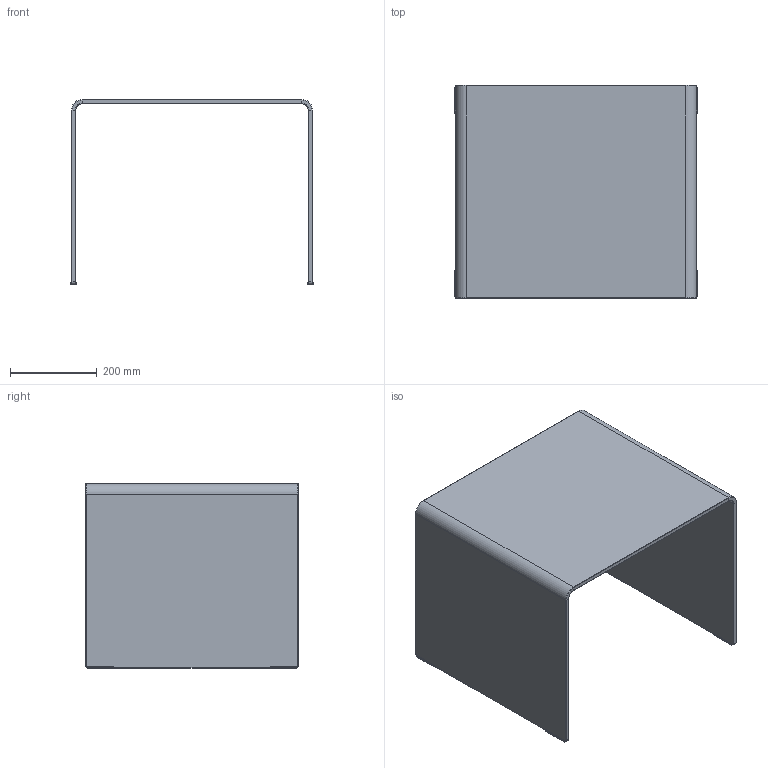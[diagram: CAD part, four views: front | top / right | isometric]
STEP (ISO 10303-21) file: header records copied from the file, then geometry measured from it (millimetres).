
FILE_DESCRIPTION((''),'2;1');
FILE_NAME('C:\AutodeskVault\AreaLavoro\Progetti\SoVeT Italia\2. Tavolini_Coffee tables\Trix\Web file\Trix Web\P4130.stp','2012-06-14T16:49:02',('Gianluca'),('So.Ve.T. s.r.l.'),'Autodesk Inventor 2013','Autodesk Inventor 2013','IL PROGETTO E'' DI ESCLUSIVA PROPRIETA'' DELLA SO.VE.T. srl. E'' VIETATA OGNI RIPRODUZIONE TOTALE O PARZIALE E QUALSIASI UTILIZZO NON AUTORIZZATO. ');
FILE_SCHEMA(('AUTOMOTIVE_DESIGN { 1 0 10303 214 1 1 1 1 }'));
Length unit declared in the file: millimetre
Products named in the file (1): P4130 Contorno semplificato
Bounding box: 557.6 x 490 x 426.2 mm (x, y, z)
Volume: 6703592.9 mm3; surface area: 1377716.6 mm2
Topology: 1 solids, 1 shells, 134 faces, 344 edges, 204 vertices
Faces by surface type: plane 78, cylinder 40, cone 16
Entity records: 4173 total; most frequent: DIRECTION 710, ORIENTED_EDGE 688, CARTESIAN_POINT 683, EDGE_CURVE 344, VECTOR 248, LINE 248, AXIS2_PLACEMENT_3D 231, VERTEX_POINT 204
